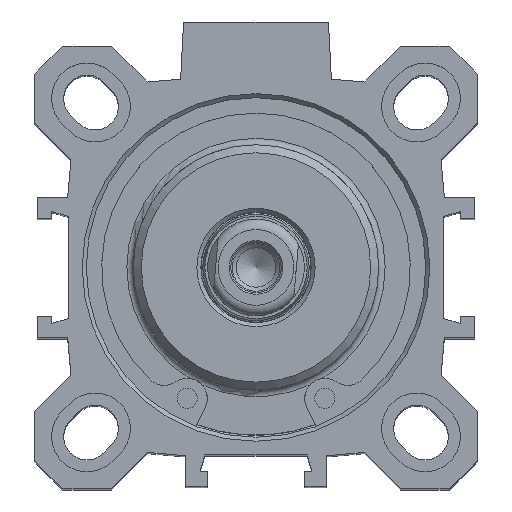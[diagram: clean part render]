
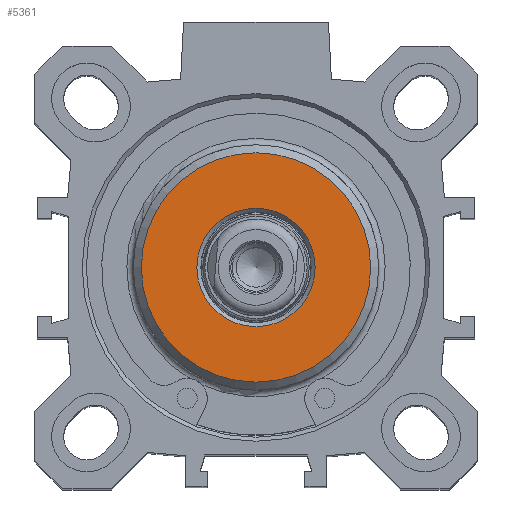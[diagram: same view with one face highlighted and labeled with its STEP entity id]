
A CAD part, top view. The second image highlights one B-rep face of the part: STEP entity #5361.
In plain terms, the highlighted planar face has unit normal (0, 0, 1).
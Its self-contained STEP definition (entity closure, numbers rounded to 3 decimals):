
#846=PLANE('',#5751);
#1780=ORIENTED_EDGE('',*,*,#2277,.F.);
#1781=ORIENTED_EDGE('',*,*,#2274,.F.);
#2274=EDGE_CURVE('',#2651,#2651,#2823,.T.);
#2277=EDGE_CURVE('',#2654,#2654,#2826,.T.);
#2651=VERTEX_POINT('',#7941);
#2654=VERTEX_POINT('',#7949);
#2823=CIRCLE('',#5697,14.25);
#2826=CIRCLE('',#5702,7.35);
#3157=EDGE_LOOP('',(#1780));
#3158=EDGE_LOOP('',(#1781));
#3472=FACE_BOUND('',#3157,.T.);
#3473=FACE_BOUND('',#3158,.T.);
#5361=ADVANCED_FACE('',(#3472,#3473),#846,.T.);
#5697=AXIS2_PLACEMENT_3D('',#7940,#6680,#6681);
#5702=AXIS2_PLACEMENT_3D('',#7948,#6690,#6691);
#5751=AXIS2_PLACEMENT_3D('',#8063,#6802,#6803);
#6680=DIRECTION('',(0.,0.,-1.));
#6681=DIRECTION('',(0.,-1.,0.));
#6690=DIRECTION('',(0.,0.,1.));
#6691=DIRECTION('',(0.,-1.,0.));
#6802=DIRECTION('',(0.,0.,1.));
#6803=DIRECTION('',(1.,0.,0.));
#7940=CARTESIAN_POINT('',(0.,0.,79.));
#7941=CARTESIAN_POINT('',(0.,14.25,79.));
#7948=CARTESIAN_POINT('',(0.,0.,79.));
#7949=CARTESIAN_POINT('',(0.,7.35,79.));
#8063=CARTESIAN_POINT('',(0.,11.05,79.));
